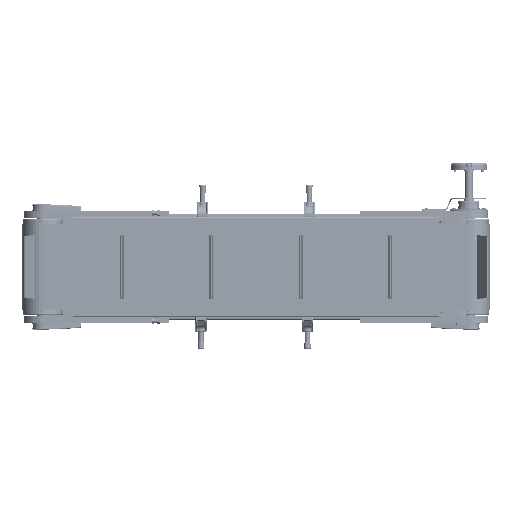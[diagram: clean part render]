
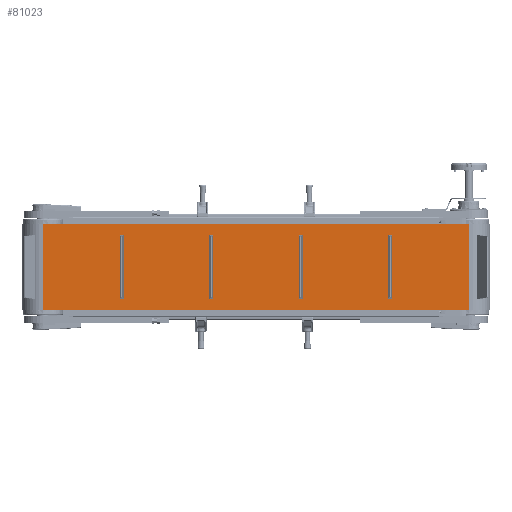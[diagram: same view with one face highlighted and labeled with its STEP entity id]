
A CAD part, front view. The second image highlights one B-rep face of the part: STEP entity #81023.
In plain terms, the highlighted planar face has unit normal (0, -1, 0).
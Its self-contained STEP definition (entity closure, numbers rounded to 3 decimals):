
#11451 = AXIS2_PLACEMENT_3D ( 'NONE', #50728, #74905, #32138 ) ;
#22505 = EDGE_CURVE ( 'NONE', #29838, #34568, #116200, .T. ) ;
#23421 = CARTESIAN_POINT ( 'NONE',  ( 500., -49.5, 100. ) ) ;
#29838 = VERTEX_POINT ( 'NONE', #23421 ) ;
#30696 = DIRECTION ( 'NONE',  ( 0., 0., -1. ) ) ;
#32138 = DIRECTION ( 'NONE',  ( 0., 0., 1. ) ) ;
#34375 = EDGE_CURVE ( 'NONE', #134670, #108191, #133515, .T. ) ;
#34568 = VERTEX_POINT ( 'NONE', #127043 ) ;
#45103 = EDGE_CURVE ( 'NONE', #108191, #34568, #111498, .T. ) ;
#45843 = VECTOR ( 'NONE', #100803, 1000. ) ;
#46680 = CARTESIAN_POINT ( 'NONE',  ( -500., -49.5, 100. ) ) ;
#50728 = CARTESIAN_POINT ( 'NONE',  ( -500., -49.5, 100. ) ) ;
#52388 = ORIENTED_EDGE ( 'NONE', *, *, #53913, .F. ) ;
#53913 = EDGE_CURVE ( 'NONE', #134670, #29838, #73559, .T. ) ;
#54137 = CARTESIAN_POINT ( 'NONE',  ( -500., -49.5, 100. ) ) ;
#64296 = CARTESIAN_POINT ( 'NONE',  ( -500., -49.5, 100. ) ) ;
#64875 = VECTOR ( 'NONE', #65293, 1000. ) ;
#65293 = DIRECTION ( 'NONE',  ( 1., 0., 0. ) ) ;
#72521 = EDGE_LOOP ( 'NONE', ( #129776, #103270, #52388, #116217 ) ) ;
#72758 = CARTESIAN_POINT ( 'NONE',  ( 500., -49.5, 100. ) ) ;
#73559 = LINE ( 'NONE', #64296, #96982 ) ;
#74905 = DIRECTION ( 'NONE',  ( 0., 1., 0. ) ) ;
#81023 = ADVANCED_FACE ( 'NONE', ( #84154 ), #106948, .F. ) ;
#84070 = VECTOR ( 'NONE', #30696, 1000. ) ;
#84154 = FACE_OUTER_BOUND ( 'NONE', #72521, .T. ) ;
#96982 = VECTOR ( 'NONE', #139000, 1000. ) ;
#99683 = CARTESIAN_POINT ( 'NONE',  ( -500., -49.5, -100. ) ) ;
#100102 = CARTESIAN_POINT ( 'NONE',  ( -500., -49.5, -100. ) ) ;
#100803 = DIRECTION ( 'NONE',  ( 0., 0., -1. ) ) ;
#103270 = ORIENTED_EDGE ( 'NONE', *, *, #22505, .F. ) ;
#106948 = PLANE ( 'NONE',  #11451 ) ;
#108191 = VERTEX_POINT ( 'NONE', #99683 ) ;
#111498 = LINE ( 'NONE', #100102, #64875 ) ;
#116200 = LINE ( 'NONE', #72758, #84070 ) ;
#116217 = ORIENTED_EDGE ( 'NONE', *, *, #34375, .T. ) ;
#127043 = CARTESIAN_POINT ( 'NONE',  ( 500., -49.5, -100. ) ) ;
#129776 = ORIENTED_EDGE ( 'NONE', *, *, #45103, .T. ) ;
#133515 = LINE ( 'NONE', #46680, #45843 ) ;
#134670 = VERTEX_POINT ( 'NONE', #54137 ) ;
#139000 = DIRECTION ( 'NONE',  ( 1., 0., 0. ) ) ;
